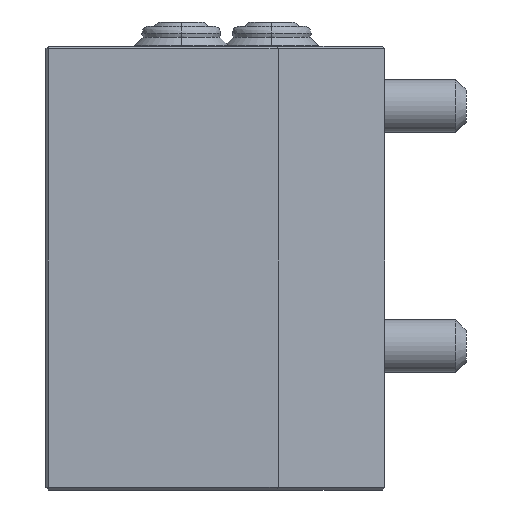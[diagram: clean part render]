
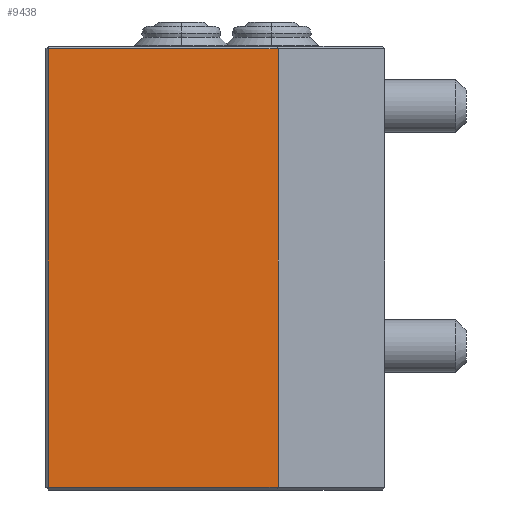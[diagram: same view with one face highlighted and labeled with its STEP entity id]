
A CAD part, left-side view. The second image highlights one B-rep face of the part: STEP entity #9438.
In plain terms, the highlighted planar face has unit normal (-1, 0, 0).
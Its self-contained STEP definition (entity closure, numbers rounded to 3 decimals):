
#778 = CARTESIAN_POINT ( 'NONE',  ( -70.371, -17.766, -16.435 ) ) ;
#935 = DIRECTION ( 'NONE',  ( 0., 1., 0. ) ) ;
#942 = CARTESIAN_POINT ( 'NONE',  ( -70.371, -42.966, -16.435 ) ) ;
#1649 = VERTEX_POINT ( 'NONE', #17656 ) ;
#3101 = DIRECTION ( 'NONE',  ( 0., 0., -1. ) ) ;
#3176 = CARTESIAN_POINT ( 'NONE',  ( -70.371, -17.766, 16.635 ) ) ;
#4191 = CARTESIAN_POINT ( 'NONE',  ( -70.371, -42.966, 16.435 ) ) ;
#4388 = VERTEX_POINT ( 'NONE', #778 ) ;
#4708 = DIRECTION ( 'NONE',  ( 0., -1., 0. ) ) ;
#4785 = ORIENTED_EDGE ( 'NONE', *, *, #7142, .F. ) ;
#4983 = VECTOR ( 'NONE', #3101, 1000. ) ;
#5001 = LINE ( 'NONE', #3176, #4983 ) ;
#5185 = DIRECTION ( 'NONE',  ( 0., 0., -1. ) ) ;
#5202 = CARTESIAN_POINT ( 'NONE',  ( -70.371, -34.966, 16.435 ) ) ;
#5248 = CARTESIAN_POINT ( 'NONE',  ( -70.371, -34.966, 16.635 ) ) ;
#7142 = EDGE_CURVE ( 'NONE', #17877, #7201, #15821, .T. ) ;
#7175 = EDGE_CURVE ( 'NONE', #7201, #1649, #15652, .T. ) ;
#7201 = VERTEX_POINT ( 'NONE', #5202 ) ;
#7424 = CARTESIAN_POINT ( 'NONE',  ( -70.371, -42.966, 16.635 ) ) ;
#7722 = PLANE ( 'NONE',  #11749 ) ;
#7764 = DIRECTION ( 'NONE',  ( 1., 0., 0. ) ) ;
#7813 = DIRECTION ( 'NONE',  ( 0., 0., -1. ) ) ;
#9235 = ORIENTED_EDGE ( 'NONE', *, *, #7175, .F. ) ;
#9438 = ADVANCED_FACE ( 'NONE', ( #9890 ), #7722, .F. ) ;
#9890 = FACE_OUTER_BOUND ( 'NONE', #10285, .T. ) ;
#10285 = EDGE_LOOP ( 'NONE', ( #12906, #9235, #4785, #18233 ) ) ;
#10874 = EDGE_CURVE ( 'NONE', #17877, #4388, #5001, .T. ) ;
#11749 = AXIS2_PLACEMENT_3D ( 'NONE', #7424, #7764, #7813 ) ;
#12260 = LINE ( 'NONE', #942, #12741 ) ;
#12741 = VECTOR ( 'NONE', #935, 1000. ) ;
#12906 = ORIENTED_EDGE ( 'NONE', *, *, #16986, .F. ) ;
#14804 = CARTESIAN_POINT ( 'NONE',  ( -70.371, -17.766, 16.435 ) ) ;
#15599 = VECTOR ( 'NONE', #5185, 1000. ) ;
#15635 = VECTOR ( 'NONE', #4708, 1000. ) ;
#15652 = LINE ( 'NONE', #5248, #15599 ) ;
#15821 = LINE ( 'NONE', #4191, #15635 ) ;
#16986 = EDGE_CURVE ( 'NONE', #1649, #4388, #12260, .T. ) ;
#17656 = CARTESIAN_POINT ( 'NONE',  ( -70.371, -34.966, -16.435 ) ) ;
#17877 = VERTEX_POINT ( 'NONE', #14804 ) ;
#18233 = ORIENTED_EDGE ( 'NONE', *, *, #10874, .T. ) ;
